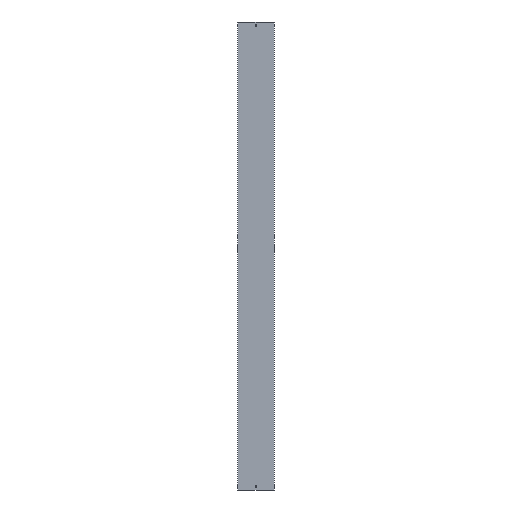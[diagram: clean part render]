
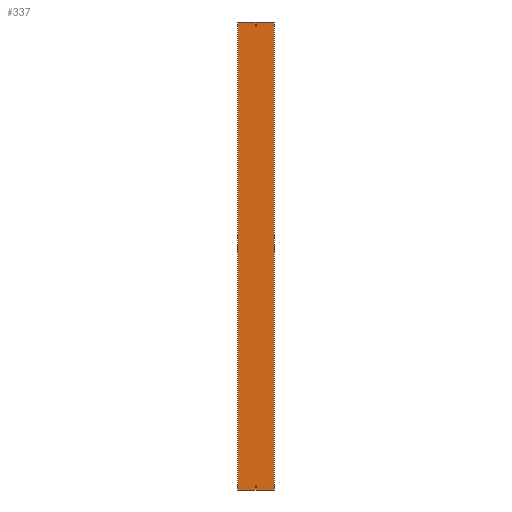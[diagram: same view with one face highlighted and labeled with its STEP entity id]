
A CAD part, front view. The second image highlights one B-rep face of the part: STEP entity #337.
In plain terms, the highlighted planar face has unit normal (0, -1, 0).
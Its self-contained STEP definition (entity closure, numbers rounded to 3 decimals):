
#20 = CARTESIAN_POINT ( 'NONE',  ( 3.25, 0., 979. ) ) ;
#29 = PLANE ( 'NONE',  #1175 ) ;
#69 = DIRECTION ( 'NONE',  ( -1., 0., 0. ) ) ;
#78 = LINE ( 'NONE', #1144, #1549 ) ;
#102 = ORIENTED_EDGE ( 'NONE', *, *, #133, .T. ) ;
#105 = ORIENTED_EDGE ( 'NONE', *, *, #1666, .F. ) ;
#126 = DIRECTION ( 'NONE',  ( 0., 0., 1. ) ) ;
#133 = EDGE_CURVE ( 'NONE', #1322, #399, #945, .T. ) ;
#145 = CARTESIAN_POINT ( 'NONE',  ( -3.25, 0., 988. ) ) ;
#149 = CARTESIAN_POINT ( 'NONE',  ( -3.25, 0., -988. ) ) ;
#159 = CARTESIAN_POINT ( 'NONE',  ( 3.25, 0., -988. ) ) ;
#188 = CARTESIAN_POINT ( 'NONE',  ( 3.25, 0., 988. ) ) ;
#199 = VECTOR ( 'NONE', #265, 1000. ) ;
#222 = VERTEX_POINT ( 'NONE', #1397 ) ;
#265 = DIRECTION ( 'NONE',  ( 1., 0., 0. ) ) ;
#296 = CARTESIAN_POINT ( 'NONE',  ( 77., 0., 1000. ) ) ;
#305 = CARTESIAN_POINT ( 'NONE',  ( 3.25, 0., -988. ) ) ;
#314 = LINE ( 'NONE', #412, #744 ) ;
#323 = LINE ( 'NONE', #296, #1116 ) ;
#337 = ADVANCED_FACE ( 'NONE', ( #966, #718, #676 ), #29, .F. ) ;
#396 = CARTESIAN_POINT ( 'NONE',  ( 77., 0., -1000. ) ) ;
#399 = VERTEX_POINT ( 'NONE', #159 ) ;
#401 = EDGE_CURVE ( 'NONE', #411, #1001, #323, .T. ) ;
#411 = VERTEX_POINT ( 'NONE', #1279 ) ;
#412 = CARTESIAN_POINT ( 'NONE',  ( -3.25, 0., 979. ) ) ;
#429 = DIRECTION ( 'NONE',  ( 0., 0., -1. ) ) ;
#461 = ORIENTED_EDGE ( 'NONE', *, *, #1164, .F. ) ;
#474 = LINE ( 'NONE', #1248, #902 ) ;
#485 = CARTESIAN_POINT ( 'NONE',  ( -77., 0., -1000. ) ) ;
#497 = VECTOR ( 'NONE', #1608, 1000. ) ;
#499 = ORIENTED_EDGE ( 'NONE', *, *, #1382, .F. ) ;
#500 = VERTEX_POINT ( 'NONE', #1354 ) ;
#508 = LINE ( 'NONE', #762, #1632 ) ;
#517 = LINE ( 'NONE', #1293, #199 ) ;
#518 = VECTOR ( 'NONE', #1590, 1000. ) ;
#526 = EDGE_CURVE ( 'NONE', #1165, #1001, #596, .T. ) ;
#557 = DIRECTION ( 'NONE',  ( 0., 0., -1. ) ) ;
#564 = EDGE_CURVE ( 'NONE', #681, #626, #508, .T. ) ;
#591 = EDGE_LOOP ( 'NONE', ( #1463, #1008, #102, #1615 ) ) ;
#596 = LINE ( 'NONE', #485, #1029 ) ;
#605 = DIRECTION ( 'NONE',  ( 0., 0., -1. ) ) ;
#626 = VERTEX_POINT ( 'NONE', #935 ) ;
#629 = VERTEX_POINT ( 'NONE', #960 ) ;
#631 = VERTEX_POINT ( 'NONE', #20 ) ;
#658 = VECTOR ( 'NONE', #666, 1000. ) ;
#666 = DIRECTION ( 'NONE',  ( 0., 0., -1. ) ) ;
#676 = FACE_BOUND ( 'NONE', #591, .T. ) ;
#681 = VERTEX_POINT ( 'NONE', #1305 ) ;
#682 = LINE ( 'NONE', #145, #658 ) ;
#718 = FACE_BOUND ( 'NONE', #813, .T. ) ;
#733 = EDGE_CURVE ( 'NONE', #222, #629, #682, .T. ) ;
#735 = DIRECTION ( 'NONE',  ( -1., 0., 0. ) ) ;
#744 = VECTOR ( 'NONE', #1195, 1000. ) ;
#762 = CARTESIAN_POINT ( 'NONE',  ( -3.25, 0., -988. ) ) ;
#781 = LINE ( 'NONE', #149, #1056 ) ;
#805 = CARTESIAN_POINT ( 'NONE',  ( -77., 0., 1000. ) ) ;
#813 = EDGE_LOOP ( 'NONE', ( #1535, #874, #105, #461 ) ) ;
#821 = ORIENTED_EDGE ( 'NONE', *, *, #401, .F. ) ;
#841 = EDGE_CURVE ( 'NONE', #1579, #1165, #474, .T. ) ;
#874 = ORIENTED_EDGE ( 'NONE', *, *, #733, .F. ) ;
#902 = VECTOR ( 'NONE', #605, 1000. ) ;
#935 = CARTESIAN_POINT ( 'NONE',  ( -3.25, 0., -979. ) ) ;
#945 = LINE ( 'NONE', #305, #1336 ) ;
#953 = CARTESIAN_POINT ( 'NONE',  ( -3.25, 0., -979. ) ) ;
#960 = CARTESIAN_POINT ( 'NONE',  ( -3.25, 0., 979. ) ) ;
#964 = LINE ( 'NONE', #953, #518 ) ;
#966 = FACE_OUTER_BOUND ( 'NONE', #1466, .T. ) ;
#1001 = VERTEX_POINT ( 'NONE', #396 ) ;
#1008 = ORIENTED_EDGE ( 'NONE', *, *, #1167, .T. ) ;
#1016 = EDGE_CURVE ( 'NONE', #399, #681, #781, .T. ) ;
#1029 = VECTOR ( 'NONE', #1492, 1000. ) ;
#1056 = VECTOR ( 'NONE', #1435, 1000. ) ;
#1068 = LINE ( 'NONE', #188, #497 ) ;
#1116 = VECTOR ( 'NONE', #429, 1000. ) ;
#1144 = CARTESIAN_POINT ( 'NONE',  ( -3.25, 0., 988. ) ) ;
#1164 = EDGE_CURVE ( 'NONE', #631, #500, #1068, .T. ) ;
#1165 = VERTEX_POINT ( 'NONE', #1597 ) ;
#1167 = EDGE_CURVE ( 'NONE', #626, #1322, #964, .T. ) ;
#1175 = AXIS2_PLACEMENT_3D ( 'NONE', #805, #1432, #69 ) ;
#1195 = DIRECTION ( 'NONE',  ( 1., 0., 0. ) ) ;
#1248 = CARTESIAN_POINT ( 'NONE',  ( -77., 0., 1000. ) ) ;
#1279 = CARTESIAN_POINT ( 'NONE',  ( 77., 0., 1000. ) ) ;
#1293 = CARTESIAN_POINT ( 'NONE',  ( -77., 0., 1000. ) ) ;
#1305 = CARTESIAN_POINT ( 'NONE',  ( -3.25, 0., -988. ) ) ;
#1322 = VERTEX_POINT ( 'NONE', #1524 ) ;
#1336 = VECTOR ( 'NONE', #557, 1000. ) ;
#1354 = CARTESIAN_POINT ( 'NONE',  ( 3.25, 0., 988. ) ) ;
#1382 = EDGE_CURVE ( 'NONE', #1579, #411, #517, .T. ) ;
#1397 = CARTESIAN_POINT ( 'NONE',  ( -3.25, 0., 988. ) ) ;
#1405 = ORIENTED_EDGE ( 'NONE', *, *, #526, .T. ) ;
#1432 = DIRECTION ( 'NONE',  ( 0., 1., 0. ) ) ;
#1435 = DIRECTION ( 'NONE',  ( -1., 0., 0. ) ) ;
#1463 = ORIENTED_EDGE ( 'NONE', *, *, #564, .T. ) ;
#1466 = EDGE_LOOP ( 'NONE', ( #1405, #821, #499, #1542 ) ) ;
#1478 = CARTESIAN_POINT ( 'NONE',  ( -77., 0., 1000. ) ) ;
#1492 = DIRECTION ( 'NONE',  ( 1., 0., 0. ) ) ;
#1524 = CARTESIAN_POINT ( 'NONE',  ( 3.25, 0., -979. ) ) ;
#1535 = ORIENTED_EDGE ( 'NONE', *, *, #1562, .F. ) ;
#1542 = ORIENTED_EDGE ( 'NONE', *, *, #841, .T. ) ;
#1549 = VECTOR ( 'NONE', #735, 1000. ) ;
#1562 = EDGE_CURVE ( 'NONE', #629, #631, #314, .T. ) ;
#1579 = VERTEX_POINT ( 'NONE', #1478 ) ;
#1590 = DIRECTION ( 'NONE',  ( 1., 0., 0. ) ) ;
#1597 = CARTESIAN_POINT ( 'NONE',  ( -77., 0., -1000. ) ) ;
#1608 = DIRECTION ( 'NONE',  ( 0., 0., 1. ) ) ;
#1615 = ORIENTED_EDGE ( 'NONE', *, *, #1016, .T. ) ;
#1632 = VECTOR ( 'NONE', #126, 1000. ) ;
#1666 = EDGE_CURVE ( 'NONE', #500, #222, #78, .T. ) ;
